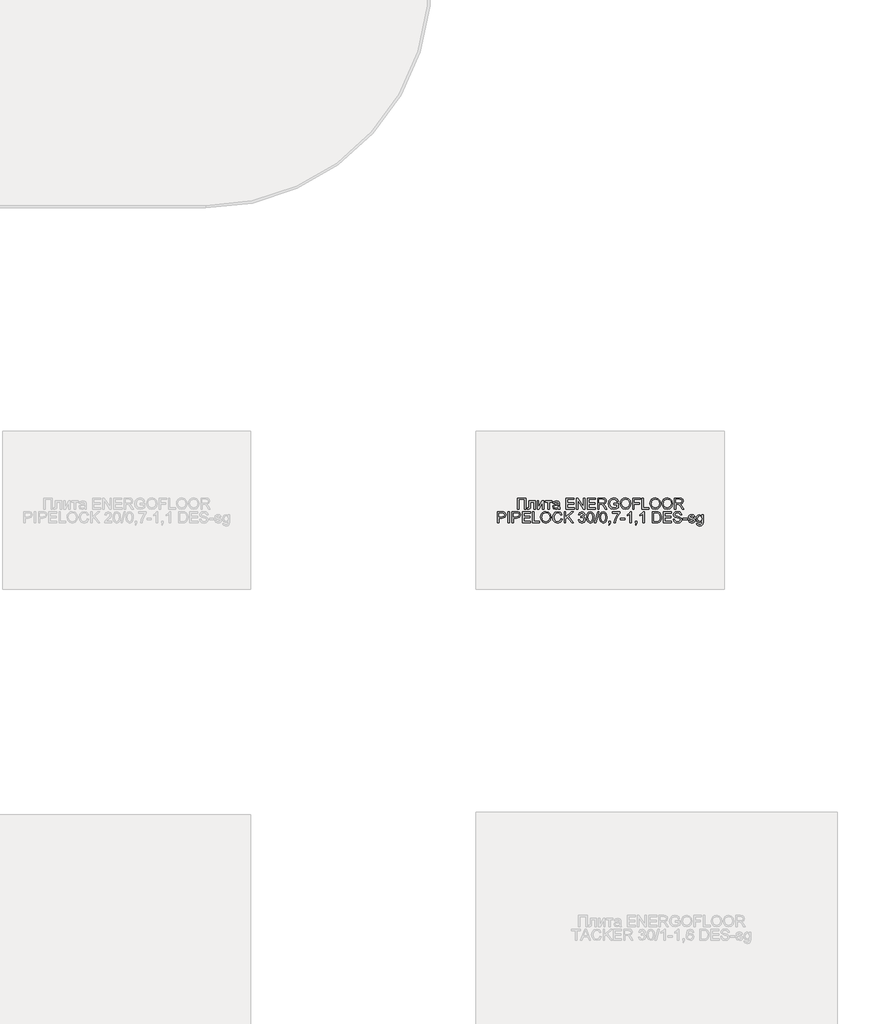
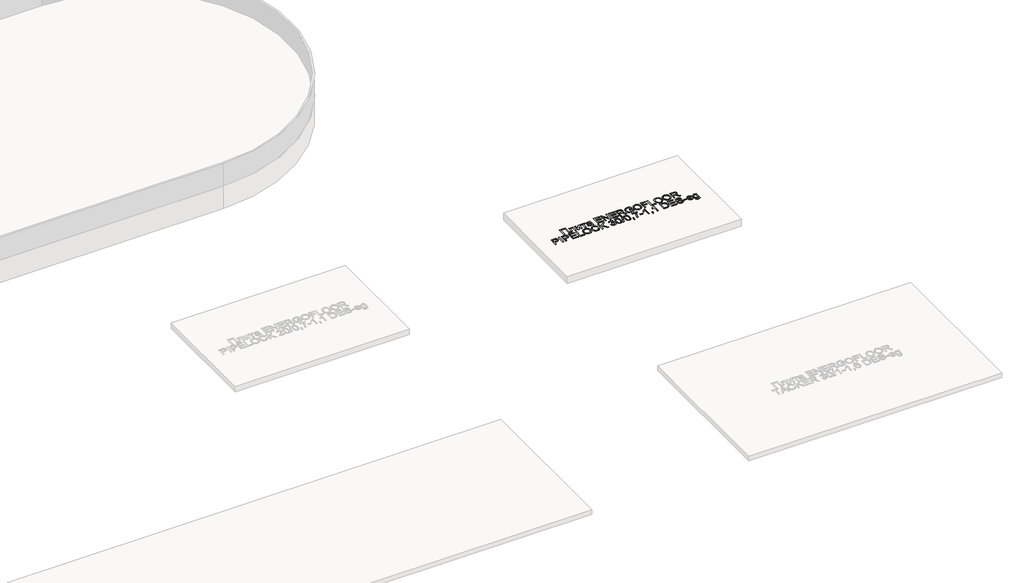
# One storey, part 6 of 7: 1 proxy.
"""IFC4 building model written with IfcOpenShell, lengths in millimetres."""

from ifc_helpers import new_model, si_unit, origin, origin_with_axes, place, context, project, spatial, polyline, outline, extrude, element, save

model = new_model("IFC4")

# Units and contexts
model_context = context("Model", 3, world=origin())
ifc_project = project(units=[si_unit("LENGTHUNIT", "METRE", prefix="MILLI")], contexts=[model_context])

# Site, building, storey
site = spatial("IfcSite", under=ifc_project)
building = spatial("IfcBuilding", under=site)
storey = spatial("IfcBuildingStorey", under=building, Name="Уровень 1", Elevation=0.0)

# Proxy
placement = place(None, origin())
element("IfcBuildingElementProxy", 1, Name="Текст модели ROLS ISOMARKET", ObjectType="Текст модели ROLS ISOMARKET", at=placement, inside=storey, context=model_context, shape_type="SweptSolid", body=[
    extrude(outline(polyline([(-12733.1193871, 11506.776011), (-12694.6578487, 11506.776011), (-12694.6578487, 11457.5452418), (-12700.8116948, 11457.5452418), (-12700.8116948, 11500.6221648), (-12726.965541, 11500.6221648), (-12726.965541, 11457.5452418), (-12733.1193871, 11457.5452418), (-12733.1193871, 11506.776011)])), origin_with_axes(), (0.0, 0.0, 1.0), 2.0),
    extrude(outline(polyline([(-12681.5809256, 11493.6990879), (-12653.8886179, 11493.6990879), (-12653.8886179, 11457.5812994), (-12660.0424641, 11457.5812994), (-12660.0424641, 11487.5452418), (-12675.4270794, 11487.5452418), (-12675.4270794, 11470.2976456), (-12675.8417429, 11462.3409148), (-12678.1193871, 11458.9815398), (-12683.5040025, 11457.5452418), (-12688.5040025, 11457.8577418), (-12688.5040025, 11463.6990879), (-12685.7515987, 11463.6990879), (-12682.9691468, 11464.0776937), (-12681.8573679, 11465.2796168), (-12681.5809256, 11470.6462033), (-12681.5809256, 11493.6990879)])), origin_with_axes(), (0.0, 0.0, 1.0), 2.0),
    extrude(outline(polyline([(-12644.6578487, 11493.6990879), (-12638.5040025, 11493.6990879), (-12638.5040025, 11466.1269725), (-12623.3838102, 11493.6990879), (-12615.4270794, 11493.6990879), (-12615.4270794, 11457.5452418), (-12621.5809256, 11457.5452418), (-12621.5809256, 11484.9490879), (-12636.6049641, 11457.5452418), (-12644.6578487, 11457.5452418), (-12644.6578487, 11493.6990879)])), origin_with_axes(), (0.0, 0.0, 1.0), 2.0),
    extrude(outline(polyline([(-12609.2732333, 11493.6990879), (-12580.0424641, 11493.6990879), (-12580.0424641, 11487.5452418), (-12591.5809256, 11487.5452418), (-12591.5809256, 11457.5452418), (-12597.7347718, 11457.5452418), (-12597.7347718, 11487.5452418), (-12609.2732333, 11487.5452418), (-12609.2732333, 11493.6990879)])), origin_with_axes(), (0.0, 0.0, 1.0), 2.0),
    extrude(outline(polyline([(-12551.5809256, 11462.1606264), (-12557.5484737, 11457.9899533), (-12564.1410218, 11456.776011), (-12573.0773198, 11459.6966841), (-12576.1963102, 11467.1606264), (-12575.0184256, 11472.0284148), (-12571.9234737, 11475.5620687), (-12567.6145794, 11477.5812994), (-12562.2900602, 11478.5067802), (-12551.6169833, 11480.6221648), (-12553.2756371, 11486.5356264), (-12560.0785218, 11488.3144725), (-12566.3044833, 11487.1305783), (-12569.2732333, 11482.9298571), (-12575.4270794, 11483.6990879), (-12572.7648198, 11489.7087033), (-12567.4042429, 11493.2303379), (-12559.2852525, 11494.4683187), (-12551.8273198, 11493.3745687), (-12547.6145794, 11490.6281744), (-12545.7275602, 11486.4514918), (-12545.4270794, 11481.0668764), (-12545.4270794, 11473.4106264), (-12545.1145794, 11462.7195206), (-12543.8886179, 11457.5452418), (-12550.0424641, 11457.5452418), (-12551.5809256, 11462.1606264)]), holes=[polyline([(-12551.5809256, 11474.4683187), (-12561.5088102, 11472.5812994), (-12566.8032814, 11471.5837033), (-12569.2011179, 11469.9611071), (-12570.0424641, 11467.5933187), (-12568.2095314, 11464.2639918), (-12562.8309256, 11462.9298571), (-12556.6049641, 11464.4022129), (-12552.590541, 11467.9659148), (-12551.6169833, 11472.7255302), (-12551.5809256, 11474.4683187)])]), origin_with_axes(), (0.0, 0.0, 1.0), 2.0),
    extrude(outline(polyline([(-12516.965541, 11457.5452418), (-12516.965541, 11506.776011), (-12481.5809256, 11506.776011), (-12481.5809256, 11500.6221648), (-12510.8116948, 11500.6221648), (-12510.8116948, 11486.0067802), (-12483.1193871, 11486.0067802), (-12483.1193871, 11479.8529341), (-12510.8116948, 11479.8529341), (-12510.8116948, 11463.6990879), (-12480.8116948, 11463.6990879), (-12480.8116948, 11457.5452418), (-12516.965541, 11457.5452418)])), origin_with_axes(), (0.0, 0.0, 1.0), 2.0),
    extrude(outline(polyline([(-12471.5809256, 11457.5452418), (-12471.5809256, 11506.776011), (-12464.9943871, 11506.776011), (-12439.2732333, 11467.7736071), (-12439.2732333, 11506.776011), (-12433.1193871, 11506.776011), (-12433.1193871, 11457.5452418), (-12439.7059256, 11457.5452418), (-12465.4270794, 11496.5596648), (-12465.4270794, 11457.5452418), (-12471.5809256, 11457.5452418)])), origin_with_axes(), (0.0, 0.0, 1.0), 2.0),
    extrude(outline(polyline([(-12422.3501564, 11457.5452418), (-12422.3501564, 11506.776011), (-12386.965541, 11506.776011), (-12386.965541, 11500.6221648), (-12416.1963102, 11500.6221648), (-12416.1963102, 11486.0067802), (-12388.5040025, 11486.0067802), (-12388.5040025, 11479.8529341), (-12416.1963102, 11479.8529341), (-12416.1963102, 11463.6990879), (-12386.1963102, 11463.6990879), (-12386.1963102, 11457.5452418), (-12422.3501564, 11457.5452418)])), origin_with_axes(), (0.0, 0.0, 1.0), 2.0),
    extrude(outline(polyline([(-12376.965541, 11457.5452418), (-12376.965541, 11506.776011), (-12355.7515987, 11506.776011), (-12345.9018391, 11505.447886), (-12340.5172237, 11500.7483668), (-12338.5040025, 11493.3024533), (-12341.8393391, 11484.432261), (-12352.1458294, 11479.8529341), (-12348.6482333, 11477.2207225), (-12343.6602525, 11470.8865879), (-12335.4511179, 11457.5452418), (-12342.6025602, 11457.5452418), (-12349.0088102, 11467.7495687), (-12353.6362141, 11474.5043764), (-12356.887416, 11477.6954821), (-12359.8140987, 11478.8673571), (-12363.3838102, 11479.0837033), (-12370.8116948, 11479.0837033), (-12370.8116948, 11457.5452418), (-12376.965541, 11457.5452418)]), holes=[polyline([(-12370.8116948, 11485.2375494), (-12357.0376564, 11485.2375494), (-12350.012416, 11486.1089437), (-12346.0220314, 11488.8974052), (-12344.6578487, 11493.0740879), (-12347.2600121, 11498.494761), (-12355.4871756, 11500.6221648), (-12370.8116948, 11500.6221648), (-12370.8116948, 11485.2375494)])]), origin_with_axes(), (0.0, 0.0, 1.0), 2.0),
    extrude(outline(polyline([(-12304.6578487, 11476.776011), (-12304.6578487, 11482.9298571), (-12284.6578487, 11482.9298571), (-12284.6578487, 11464.5284148), (-12294.5316468, 11458.7231264), (-12304.9703487, 11456.776011), (-12318.1133775, 11459.8709629), (-12327.0316468, 11468.8312994), (-12330.0424641, 11481.9202418), (-12327.043666, 11495.3036552), (-12318.4198679, 11504.5284148), (-12305.4631371, 11507.5452418), (-12295.8357333, 11505.7964437), (-12289.0869352, 11500.9286552), (-12285.3669833, 11492.7856264), (-12291.0400602, 11491.1870687), (-12293.8465506, 11496.8781744), (-12298.6422237, 11500.1594244), (-12305.559291, 11501.3913956), (-12313.4378968, 11500.0632706), (-12318.7984737, 11496.5776937), (-12321.965541, 11491.8361071), (-12323.8886179, 11482.1726456), (-12321.574916, 11471.4454821), (-12314.8441468, 11465.0272129), (-12305.4631371, 11462.9298571), (-12297.043666, 11464.510386), (-12290.8116948, 11467.8817802), (-12290.8116948, 11476.776011), (-12304.6578487, 11476.776011)])), origin_with_axes(), (0.0, 0.0, 1.0), 2.0),
    extrude(outline(polyline([(-12276.965541, 11481.5115879), (-12275.324916, 11492.3980062), (-12270.403041, 11500.6341841), (-12262.8880169, 11505.8174773), (-12253.4679448, 11507.5452418), (-12241.2203487, 11504.3000494), (-12232.903041, 11495.2495687), (-12230.0424641, 11482.0764918), (-12233.0532814, 11468.7231264), (-12241.5869352, 11459.8048571), (-12253.5040025, 11456.776011), (-12265.8838102, 11460.1233668), (-12274.153041, 11469.2579821), (-12276.965541, 11481.5115879)]), holes=[polyline([(-12270.8116948, 11481.4514918), (-12265.8898198, 11467.8817802), (-12253.5400602, 11462.9298571), (-12241.0821275, 11467.9298571), (-12236.1963102, 11482.1245687), (-12238.2876564, 11492.2808187), (-12244.3994352, 11499.0055783), (-12253.4318871, 11501.3913956), (-12265.6794833, 11496.7940398), (-12269.5286419, 11490.6597249), (-12270.8116948, 11481.4514918)])]), origin_with_axes(), (0.0, 0.0, 1.0), 2.0),
    extrude(outline(polyline([(-12221.5809256, 11457.5452418), (-12221.5809256, 11506.776011), (-12188.5040025, 11506.776011), (-12188.5040025, 11500.6221648), (-12215.4270794, 11500.6221648), (-12215.4270794, 11486.0067802), (-12192.3501564, 11486.0067802), (-12192.3501564, 11479.8529341), (-12215.4270794, 11479.8529341), (-12215.4270794, 11457.5452418), (-12221.5809256, 11457.5452418)])), origin_with_axes(), (0.0, 0.0, 1.0), 2.0),
    extrude(outline(polyline([(-12180.0424641, 11457.5452418), (-12180.0424641, 11506.776011), (-12173.8886179, 11506.776011), (-12173.8886179, 11463.6990879), (-12149.2732333, 11463.6990879), (-12149.2732333, 11457.5452418), (-12180.0424641, 11457.5452418)])), origin_with_axes(), (0.0, 0.0, 1.0), 2.0),
    extrude(outline(polyline([(-12144.6578487, 11481.5115879), (-12143.0172237, 11492.3980062), (-12138.0953487, 11500.6341841), (-12130.5803246, 11505.8174773), (-12121.1602525, 11507.5452418), (-12108.9126564, 11504.3000494), (-12100.5953487, 11495.2495687), (-12097.7347718, 11482.0764918), (-12100.7455891, 11468.7231264), (-12109.2792429, 11459.8048571), (-12121.1963102, 11456.776011), (-12133.5761179, 11460.1233668), (-12141.8453487, 11469.2579821), (-12144.6578487, 11481.5115879)]), holes=[polyline([(-12138.5040025, 11481.4514918), (-12133.5821275, 11467.8817802), (-12121.2323679, 11462.9298571), (-12108.7744352, 11467.9298571), (-12103.8886179, 11482.1245687), (-12105.9799641, 11492.2808187), (-12112.0917429, 11499.0055783), (-12121.1241948, 11501.3913956), (-12133.371791, 11496.7940398), (-12137.2209496, 11490.6597249), (-12138.5040025, 11481.4514918)])]), origin_with_axes(), (0.0, 0.0, 1.0), 2.0),
    extrude(outline(polyline([(-12091.5809256, 11481.5115879), (-12089.9403006, 11492.3980062), (-12085.0184256, 11500.6341841), (-12077.5034016, 11505.8174773), (-12068.0833294, 11507.5452418), (-12055.8357333, 11504.3000494), (-12047.5184256, 11495.2495687), (-12044.6578487, 11482.0764918), (-12047.668666, 11468.7231264), (-12056.2023198, 11459.8048571), (-12068.1193871, 11456.776011), (-12080.4991948, 11460.1233668), (-12088.7684256, 11469.2579821), (-12091.5809256, 11481.5115879)]), holes=[polyline([(-12085.4270794, 11481.4514918), (-12080.5052044, 11467.8817802), (-12068.1554448, 11462.9298571), (-12055.6975121, 11467.9298571), (-12050.8116948, 11482.1245687), (-12052.903041, 11492.2808187), (-12059.0148198, 11499.0055783), (-12068.0472718, 11501.3913956), (-12080.2948679, 11496.7940398), (-12084.1440266, 11490.6597249), (-12085.4270794, 11481.4514918)])]), origin_with_axes(), (0.0, 0.0, 1.0), 2.0),
    extrude(outline(polyline([(-12036.1963102, 11457.5452418), (-12036.1963102, 11506.776011), (-12014.9823679, 11506.776011), (-12005.1326083, 11505.447886), (-11999.7479929, 11500.7483668), (-11997.7347718, 11493.3024533), (-12001.0701083, 11484.432261), (-12011.3765987, 11479.8529341), (-12007.8790025, 11477.2207225), (-12002.8910218, 11470.8865879), (-11994.6818871, 11457.5452418), (-12001.8333294, 11457.5452418), (-12008.2395794, 11467.7495687), (-12012.8669833, 11474.5043764), (-12016.1181852, 11477.6954821), (-12019.0448679, 11478.8673571), (-12022.6145794, 11479.0837033), (-12030.0424641, 11479.0837033), (-12030.0424641, 11457.5452418), (-12036.1963102, 11457.5452418)]), holes=[polyline([(-12030.0424641, 11485.2375494), (-12016.2684256, 11485.2375494), (-12009.2431852, 11486.1089437), (-12005.2528006, 11488.8974052), (-12003.8886179, 11493.0740879), (-12006.4907814, 11498.494761), (-12014.7179448, 11500.6221648), (-12030.0424641, 11500.6221648), (-12030.0424641, 11485.2375494)])]), origin_with_axes(), (0.0, 0.0, 1.0), 2.0),
    extrude(outline(polyline([(-12820.8116948, 11396.776011), (-12820.8116948, 11446.0067802), (-12802.5665025, 11446.0067802), (-12795.2107333, 11445.5380302), (-12789.231166, 11443.2363475), (-12785.3549641, 11438.4767321), (-12783.8886179, 11431.7639918), (-12787.8489544, 11421.1269725), (-12802.1458294, 11416.776011), (-12814.6578487, 11416.776011), (-12814.6578487, 11396.776011), (-12820.8116948, 11396.776011)]), holes=[polyline([(-12814.6578487, 11422.9298571), (-12801.7852525, 11422.9298571), (-12792.7227525, 11425.1894725), (-12790.0424641, 11431.5476456), (-12791.6229929, 11436.6437994), (-12795.7756371, 11439.432261), (-12801.9294833, 11439.8529341), (-12814.6578487, 11439.8529341), (-12814.6578487, 11422.9298571)])]), origin_with_axes(), (0.0, 0.0, 1.0), 2.0),
    extrude(outline(polyline([(-12774.6578487, 11396.776011), (-12774.6578487, 11446.0067802), (-12768.5040025, 11446.0067802), (-12768.5040025, 11396.776011), (-12774.6578487, 11396.776011)])), origin_with_axes(), (0.0, 0.0, 1.0), 2.0),
    extrude(outline(polyline([(-12756.1963102, 11396.776011), (-12756.1963102, 11446.0067802), (-12737.9511179, 11446.0067802), (-12730.5953487, 11445.5380302), (-12724.6157814, 11443.2363475), (-12720.7395794, 11438.4767321), (-12719.2732333, 11431.7639918), (-12723.2335698, 11421.1269725), (-12737.5304448, 11416.776011), (-12750.0424641, 11416.776011), (-12750.0424641, 11396.776011), (-12756.1963102, 11396.776011)]), holes=[polyline([(-12750.0424641, 11422.9298571), (-12737.1698679, 11422.9298571), (-12728.1073679, 11425.1894725), (-12725.4270794, 11431.5476456), (-12727.0076083, 11436.6437994), (-12731.1602525, 11439.432261), (-12737.3140987, 11439.8529341), (-12750.0424641, 11439.8529341), (-12750.0424641, 11422.9298571)])]), origin_with_axes(), (0.0, 0.0, 1.0), 2.0),
    extrude(outline(polyline([(-12710.8116948, 11396.776011), (-12710.8116948, 11446.0067802), (-12675.4270794, 11446.0067802), (-12675.4270794, 11439.8529341), (-12704.6578487, 11439.8529341), (-12704.6578487, 11425.2375494), (-12676.965541, 11425.2375494), (-12676.965541, 11419.0837033), (-12704.6578487, 11419.0837033), (-12704.6578487, 11402.9298571), (-12674.6578487, 11402.9298571), (-12674.6578487, 11396.776011), (-12710.8116948, 11396.776011)])), origin_with_axes(), (0.0, 0.0, 1.0), 2.0),
    extrude(outline(polyline([(-12665.4270794, 11396.776011), (-12665.4270794, 11446.0067802), (-12659.2732333, 11446.0067802), (-12659.2732333, 11402.9298571), (-12634.6578487, 11402.9298571), (-12634.6578487, 11396.776011), (-12665.4270794, 11396.776011)])), origin_with_axes(), (0.0, 0.0, 1.0), 2.0),
    extrude(outline(polyline([(-12630.0424641, 11420.7423571), (-12628.4018391, 11431.6287754), (-12623.4799641, 11439.8649533), (-12615.96494, 11445.0482466), (-12606.5448679, 11446.776011), (-12594.2972718, 11443.5308187), (-12585.9799641, 11434.4803379), (-12583.1193871, 11421.307261), (-12586.1302044, 11407.9538956), (-12594.6638583, 11399.0356264), (-12606.5809256, 11396.0067802), (-12618.9607333, 11399.354136), (-12627.2299641, 11408.4887514), (-12630.0424641, 11420.7423571)]), holes=[polyline([(-12623.8886179, 11420.682261), (-12618.9667429, 11407.1125494), (-12606.6169833, 11402.1606264), (-12594.1590506, 11407.1606264), (-12589.2732333, 11421.3553379), (-12591.3645794, 11431.5115879), (-12597.4763583, 11438.2363475), (-12606.5088102, 11440.6221648), (-12618.7564064, 11436.0248091), (-12622.605565, 11429.8904942), (-12623.8886179, 11420.682261)])]), origin_with_axes(), (0.0, 0.0, 1.0), 2.0),
    extrude(outline(polyline([(-12540.0424641, 11414.276011), (-12533.8886179, 11412.6894725), (-12541.184291, 11400.2796168), (-12554.0689064, 11396.0067802), (-12566.8753968, 11399.2399533), (-12574.387416, 11408.6029341), (-12576.965541, 11421.7639918), (-12574.0508775, 11435.1413956), (-12565.7636179, 11443.8132706), (-12553.9366948, 11446.776011), (-12541.6109737, 11442.9418764), (-12534.6578487, 11432.1486071), (-12540.8116948, 11430.682261), (-12545.8597718, 11438.2483668), (-12554.1770794, 11440.6221648), (-12563.8044833, 11437.9899533), (-12569.2431852, 11430.9226456), (-12570.8116948, 11421.776011), (-12568.9547237, 11411.1750494), (-12563.1734737, 11404.4022129), (-12554.6818871, 11402.1606264), (-12545.2648198, 11405.213511), (-12540.0424641, 11414.276011)])), origin_with_axes(), (0.0, 0.0, 1.0), 2.0),
    extrude(outline(polyline([(-12525.4270794, 11396.776011), (-12525.4270794, 11446.0067802), (-12519.2732333, 11446.0067802), (-12519.2732333, 11421.9082225), (-12494.0328487, 11446.0067802), (-12485.4270794, 11446.0067802), (-12506.6169833, 11425.7663956), (-12484.6578487, 11396.776011), (-12492.1818871, 11396.776011), (-12510.9799641, 11421.6077418), (-12519.2732333, 11413.6990879), (-12519.2732333, 11396.776011), (-12525.4270794, 11396.776011)])), origin_with_axes(), (0.0, 0.0, 1.0), 2.0),
    extrude(outline(polyline([(-12463.1193871, 11409.8529341), (-12456.965541, 11410.6221648), (-12453.5701083, 11404.1437994), (-12447.2179448, 11402.1606264), (-12439.7419833, 11404.8889918), (-12436.965541, 11411.6437994), (-12439.7179448, 11418.0079821), (-12446.7131371, 11420.526011), (-12451.028041, 11419.8529341), (-12450.3429448, 11426.0067802), (-12442.3741948, 11427.7014918), (-12439.2732333, 11433.1341841), (-12441.5208294, 11437.947886), (-12447.3140987, 11439.8529341), (-12453.1794833, 11437.9298571), (-12456.1963102, 11432.1606264), (-12462.3501564, 11432.9298571), (-12457.3140987, 11442.5812994), (-12447.5304448, 11446.0067802), (-12440.1085698, 11444.3180783), (-12434.9162621, 11439.7026937), (-12433.1193871, 11433.494761), (-12434.8261179, 11427.8216841), (-12439.8741948, 11423.7471648), (-12433.1674641, 11419.5404341), (-12430.8116948, 11411.5356264), (-12435.5232333, 11400.526011), (-12447.434291, 11396.0067802), (-12458.2275602, 11399.8649533), (-12463.1193871, 11409.8529341)])), origin_with_axes(), (0.0, 0.0, 1.0), 2.0),
    extrude(outline(polyline([(-12425.4270794, 11420.994761), (-12423.6181852, 11435.1594244), (-12418.2455891, 11443.3264918), (-12409.2732333, 11446.0067802), (-12402.0857333, 11444.4202418), (-12397.121791, 11439.8469244), (-12394.2371756, 11432.5632706), (-12393.1193871, 11420.994761), (-12394.9102525, 11406.8901937), (-12400.2648198, 11398.7050975), (-12409.2732333, 11396.0067802), (-12420.5232333, 11400.6942802), (-12424.2011179, 11409.0206023), (-12425.4270794, 11420.994761)]), holes=[polyline([(-12419.2732333, 11421.0067802), (-12416.3886179, 11405.7243283), (-12409.2732333, 11402.1606264), (-12402.1578487, 11405.7363475), (-12399.2732333, 11421.0067802), (-12402.0616948, 11436.1149533), (-12409.3453487, 11439.8529341), (-12416.2924641, 11436.5596648), (-12419.2732333, 11421.0067802)])]), origin_with_axes(), (0.0, 0.0, 1.0), 2.0),
    extrude(outline(polyline([(-12390.8116948, 11396.776011), (-12376.965541, 11446.0067802), (-12371.4126564, 11446.0067802), (-12385.2588102, 11396.776011), (-12390.8116948, 11396.776011)])), origin_with_axes(), (0.0, 0.0, 1.0), 2.0),
    extrude(outline(polyline([(-12368.5040025, 11420.994761), (-12366.6951083, 11435.1594244), (-12361.3225121, 11443.3264918), (-12352.3501564, 11446.0067802), (-12345.1626564, 11444.4202418), (-12340.1987141, 11439.8469244), (-12337.3140987, 11432.5632706), (-12336.1963102, 11420.994761), (-12337.9871756, 11406.8901937), (-12343.3417429, 11398.7050975), (-12352.3501564, 11396.0067802), (-12363.6001564, 11400.6942802), (-12367.278041, 11409.0206023), (-12368.5040025, 11420.994761)]), holes=[polyline([(-12362.3501564, 11421.0067802), (-12359.465541, 11405.7243283), (-12352.3501564, 11402.1606264), (-12345.2347718, 11405.7363475), (-12342.3501564, 11421.0067802), (-12345.1386179, 11436.1149533), (-12352.4222718, 11439.8529341), (-12359.3693871, 11436.5596648), (-12362.3501564, 11421.0067802)])]), origin_with_axes(), (0.0, 0.0, 1.0), 2.0),
    extrude(outline(polyline([(-12327.7347718, 11396.776011), (-12327.7347718, 11402.9298571), (-12321.5809256, 11402.9298571), (-12321.5809256, 11396.776011), (-12322.6866948, 11390.4839437), (-12326.1963102, 11386.776011), (-12327.7347718, 11389.0837033), (-12325.4751564, 11391.7399533), (-12324.6698679, 11396.776011), (-12327.7347718, 11396.776011)])), origin_with_axes(), (0.0, 0.0, 1.0), 2.0),
    extrude(outline(polyline([(-12311.5809256, 11439.0837033), (-12311.5809256, 11445.2375494), (-12279.2732333, 11445.2375494), (-12279.2732333, 11440.2615879), (-12288.4378968, 11427.0224052), (-12295.4511179, 11410.1534148), (-12297.7347718, 11396.776011), (-12303.8886179, 11396.776011), (-12301.4427044, 11410.6582225), (-12294.7299641, 11426.3493283), (-12285.4270794, 11439.0837033), (-12311.5809256, 11439.0837033)])), origin_with_axes(), (0.0, 0.0, 1.0), 2.0),
    extrude(outline(polyline([(-12275.4270794, 11411.3913956), (-12275.4270794, 11417.5452418), (-12256.1963102, 11417.5452418), (-12256.1963102, 11411.3913956), (-12275.4270794, 11411.3913956)])), origin_with_axes(), (0.0, 0.0, 1.0), 2.0),
    extrude(outline(polyline([(-12227.7347718, 11396.776011), (-12233.8886179, 11396.776011), (-12233.8886179, 11435.1413956), (-12239.7179448, 11430.9887514), (-12246.1963102, 11427.8817802), (-12246.1963102, 11433.6990879), (-12237.1758775, 11439.4562994), (-12231.7011179, 11446.0067802), (-12227.7347718, 11446.0067802), (-12227.7347718, 11396.776011)])), origin_with_axes(), (0.0, 0.0, 1.0), 2.0),
    extrude(outline(polyline([(-12210.0424641, 11396.776011), (-12210.0424641, 11402.9298571), (-12203.8886179, 11402.9298571), (-12203.8886179, 11396.776011), (-12204.9943871, 11390.4839437), (-12208.5040025, 11386.776011), (-12210.0424641, 11389.0837033), (-12207.7828487, 11391.7399533), (-12206.9775602, 11396.776011), (-12210.0424641, 11396.776011)])), origin_with_axes(), (0.0, 0.0, 1.0), 2.0),
    extrude(outline(polyline([(-12170.8116948, 11396.776011), (-12176.965541, 11396.776011), (-12176.965541, 11435.1413956), (-12182.7948679, 11430.9887514), (-12189.2732333, 11427.8817802), (-12189.2732333, 11433.6990879), (-12180.2528006, 11439.4562994), (-12174.778041, 11446.0067802), (-12170.8116948, 11446.0067802), (-12170.8116948, 11396.776011)])), origin_with_axes(), (0.0, 0.0, 1.0), 2.0),
    extrude(outline(polyline([(-12134.6578487, 11396.776011), (-12134.6578487, 11446.0067802), (-12117.6746756, 11446.0067802), (-12108.8886179, 11445.2976456), (-12101.653041, 11441.776011), (-12095.8237141, 11433.3625494), (-12093.8886179, 11421.6558187), (-12095.1987141, 11411.7219244), (-12098.5640987, 11404.5524533), (-12103.059291, 11400.0873091), (-12108.9427044, 11397.6173571), (-12116.8573679, 11396.776011), (-12134.6578487, 11396.776011)]), holes=[polyline([(-12128.5040025, 11402.9298571), (-12117.6145794, 11402.9298571), (-12109.6939064, 11403.8192802), (-12105.1265987, 11406.3312994), (-12101.3826083, 11412.4430783), (-12100.0424641, 11421.7519725), (-12102.668666, 11433.4106264), (-12109.0568871, 11438.8673571), (-12117.7828487, 11439.8529341), (-12128.5040025, 11439.8529341), (-12128.5040025, 11402.9298571)])]), origin_with_axes(), (0.0, 0.0, 1.0), 2.0),
    extrude(outline(polyline([(-12085.4270794, 11396.776011), (-12085.4270794, 11446.0067802), (-12050.0424641, 11446.0067802), (-12050.0424641, 11439.8529341), (-12079.2732333, 11439.8529341), (-12079.2732333, 11425.2375494), (-12051.5809256, 11425.2375494), (-12051.5809256, 11419.0837033), (-12079.2732333, 11419.0837033), (-12079.2732333, 11402.9298571), (-12049.2732333, 11402.9298571), (-12049.2732333, 11396.776011), (-12085.4270794, 11396.776011)])), origin_with_axes(), (0.0, 0.0, 1.0), 2.0),
    extrude(outline(polyline([(-12042.3501564, 11413.6990879), (-12036.1963102, 11413.6990879), (-12034.2131371, 11407.5392321), (-12029.3693871, 11403.6450014), (-12021.9895794, 11402.1606264), (-12015.559291, 11403.2844244), (-12011.4066468, 11406.3733668), (-12010.0424641, 11410.5019725), (-12011.0640987, 11414.3421168), (-12015.246791, 11417.1365879), (-12024.2071275, 11419.4863475), (-12033.8525602, 11422.5212033), (-12039.0869352, 11427.1005302), (-12040.8116948, 11433.2183187), (-12038.6782814, 11440.1834629), (-12032.4463102, 11445.0993283), (-12023.3237141, 11446.776011), (-12013.5881371, 11445.0212033), (-12007.0977525, 11439.8649533), (-12004.6578487, 11432.1606264), (-12010.8116948, 11432.1606264), (-12014.2972718, 11438.4827418), (-12023.0833294, 11440.6221648), (-12031.8934256, 11438.5067802), (-12034.6578487, 11433.3986071), (-12032.6987141, 11429.1317802), (-12022.6506371, 11425.6942802), (-12011.7612141, 11422.6053379), (-12005.8056852, 11417.6173571), (-12003.8886179, 11410.6582225), (-12006.0941468, 11403.2964437), (-12012.4403006, 11397.9238475), (-12021.7491948, 11396.0067802), (-12032.7407814, 11398.0740879), (-12039.6939064, 11404.3000494), (-12042.3501564, 11413.6990879)])), origin_with_axes(), (0.0, 0.0, 1.0), 2.0),
    extrude(outline(polyline([(-11998.5040025, 11411.3913956), (-11998.5040025, 11417.5452418), (-11979.2732333, 11417.5452418), (-11979.2732333, 11411.3913956), (-11998.5040025, 11411.3913956)])), origin_with_axes(), (0.0, 0.0, 1.0), 2.0),
    extrude(outline(polyline([(-11974.6578487, 11407.5452418), (-11968.5040025, 11408.3144725), (-11965.6554448, 11403.7471648), (-11959.1290025, 11402.1606264), (-11952.8549641, 11403.6149533), (-11950.8116948, 11407.0284148), (-11952.8669833, 11409.7928379), (-11959.2011179, 11411.5476456), (-11968.4679448, 11414.5584629), (-11972.512416, 11418.0740879), (-11973.8886179, 11423.0380302), (-11972.7828487, 11427.6233668), (-11969.7660218, 11431.1269725), (-11965.8537621, 11432.947886), (-11960.559291, 11433.6990879), (-11953.0713102, 11432.4911552), (-11948.3116948, 11429.2219244), (-11946.1963102, 11423.6990879), (-11952.3501564, 11422.9298571), (-11954.6638583, 11426.3252898), (-11960.0785218, 11427.5452418), (-11965.9679448, 11426.3793764), (-11967.7347718, 11423.6630302), (-11967.0015987, 11421.8721648), (-11964.7059256, 11420.5139918), (-11959.4054448, 11419.2038956), (-11950.3729929, 11416.307261), (-11946.1782814, 11413.026011), (-11944.6578487, 11407.6774533), (-11946.4427044, 11401.7880302), (-11951.5929448, 11397.5151937), (-11959.2131371, 11396.0067802), (-11969.9463102, 11398.9154341), (-11974.6578487, 11407.5452418)])), origin_with_axes(), (0.0, 0.0, 1.0), 2.0),
    extrude(outline(polyline([(-11939.2732333, 11393.6990879), (-11933.1193871, 11392.9298571), (-11931.1241948, 11389.6846648), (-11925.1506371, 11388.3144725), (-11918.8525602, 11389.8649533), (-11915.8477525, 11394.2159148), (-11915.4270794, 11401.3913956), (-11925.0424641, 11396.776011), (-11936.1181852, 11402.1486071), (-11940.0424641, 11415.0332225), (-11938.2816468, 11424.5704821), (-11933.1854929, 11431.3192802), (-11925.3429448, 11433.6990879), (-11915.4270794, 11428.3144725), (-11915.4270794, 11432.9298571), (-11909.2732333, 11432.9298571), (-11909.2732333, 11401.7159148), (-11910.9559256, 11389.7627898), (-11916.2864544, 11384.2038956), (-11925.2708294, 11382.1606264), (-11935.5052044, 11385.0392321), (-11939.2732333, 11393.6990879)]), holes=[polyline([(-11933.8886179, 11415.4538956), (-11931.262416, 11405.9286552), (-11924.6698679, 11402.9298571), (-11918.0893391, 11405.9106264), (-11915.4270794, 11415.2736071), (-11918.1674641, 11424.4502898), (-11924.7660218, 11427.5452418), (-11931.2263583, 11424.4983668), (-11933.8886179, 11415.4538956)])]), origin_with_axes(), (0.0, 0.0, 1.0), 2.0),
])

save(model, "model.ifc")
